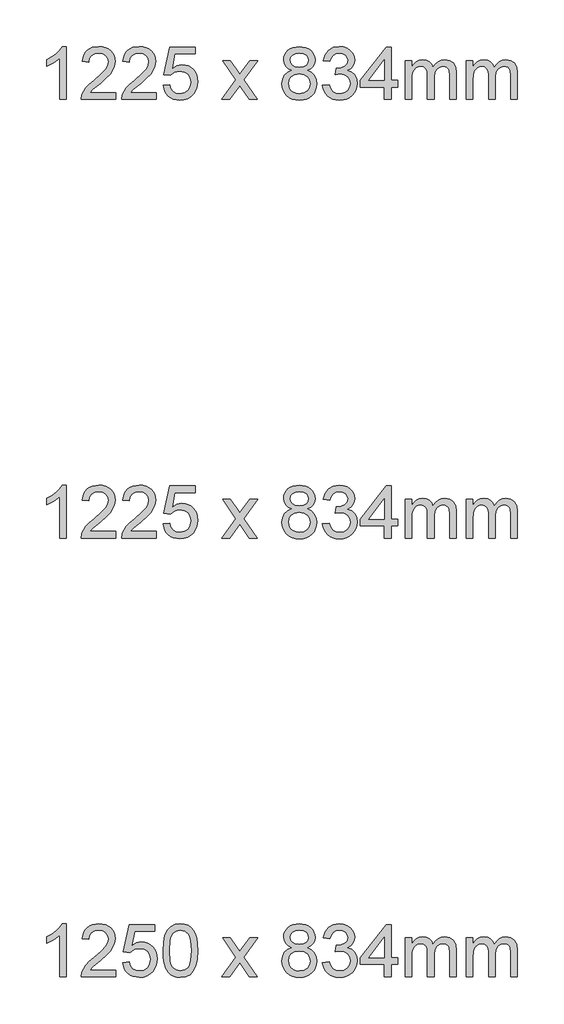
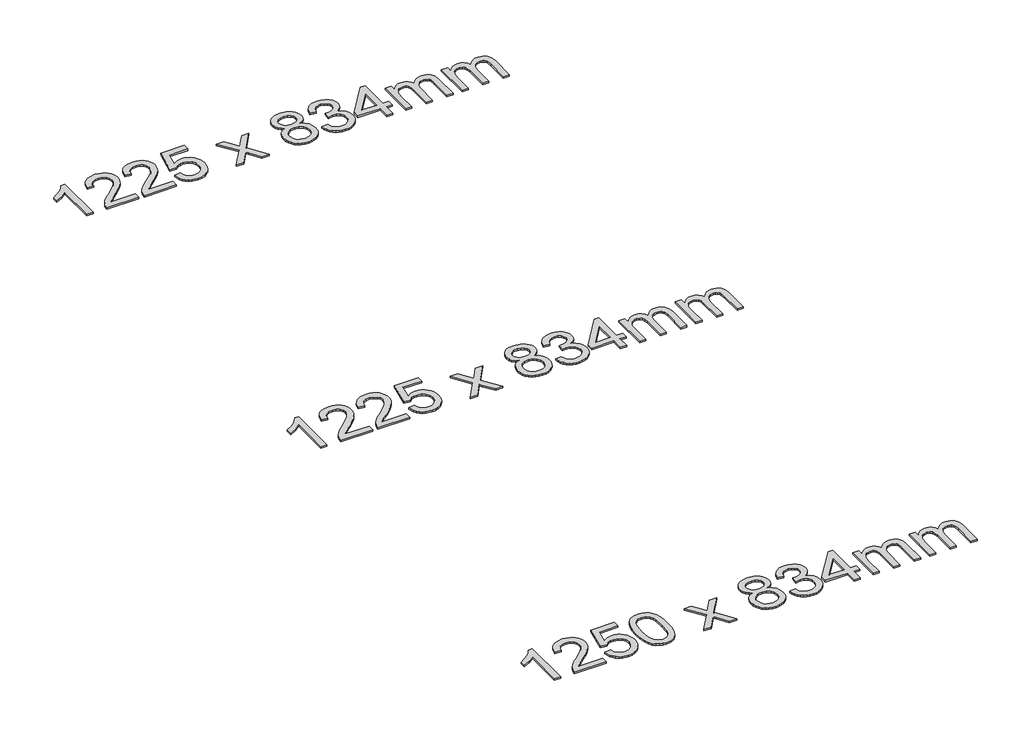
# One storey, part 58 of 67: 3 proxies.
"""IFC4 building model written with IfcOpenShell, lengths in millimetres."""

from ifc_helpers import new_model, si_unit, origin, origin_with_axes, place, context, project, spatial, polyline, outline, extrude, element, save

model = new_model("IFC4")

# Units and contexts
model_context = context("Model", 3, world=origin())
ifc_project = project(units=[si_unit("LENGTHUNIT", "METRE", prefix="MILLI")], contexts=[model_context])

# Site, building, storey
site = spatial("IfcSite", under=ifc_project)
building = spatial("IfcBuilding", under=site)
storey = spatial("IfcBuildingStorey", under=building, Name="Marelli - Linha COLAB - Planta Baixa", Elevation=0.0)

# Proxies
placement = place(None, origin())
element("IfcBuildingElementProxy", 1, Name="300mm Arial", ObjectType="300mm Arial", at=placement, inside=storey, context=model_context, shape_type="SweptSolid", body=[
    extrude(outline(polyline([(-317.6891758, -3780.5663201), (-355.3602921, -3780.5663201), (-355.3602921, -3545.7104543), (-391.0448457, -3571.1311002), (-430.7025247, -3590.1505994), (-430.7025247, -3554.5396222), (-401.1156153, -3538.4447849), (-375.4834373, -3519.2965271), (-355.2775187, -3498.9342587), (-341.9693875, -3479.1973896), (-317.6891758, -3479.1973896), (-317.6891758, -3780.5663201)])), origin_with_axes(), (0.0, 0.0, 1.0), 10.0),
    extrude(outline(polyline([(-35.1558035, -3742.8952038), (-35.1558035, -3780.5663201), (-232.9291641, -3780.5663201), (-228.8824622, -3754.5938512), (-219.5934418, -3734.2959621), (-206.0002021, -3714.6050783), (-186.3369094, -3693.9944896), (-158.8377303, -3670.9374855), (-118.1867698, -3634.8298677), (-93.7961935, -3608.1768171), (-81.6009054, -3586.5453558), (-77.5358094, -3565.5025057), (-81.3709792, -3546.6393564), (-92.8764886, -3530.9583863), (-110.5624155, -3520.390976), (-132.9388378, -3516.8685059), (-156.4373003, -3520.3082026), (-174.6934443, -3530.6272925), (-186.4748652, -3547.0164354), (-190.5491583, -3568.6662908), (-228.2202746, -3563.9574013), (-219.0876041, -3527.5186897), (-210.5412455, -3512.9827524), (-199.341538, -3500.9024273), (-185.745999, -3491.4064733), (-170.0121459, -3484.623649), (-132.1294974, -3479.1973896), (-111.9396737, -3480.7057058), (-93.9709375, -3485.2306543), (-78.2232888, -3492.7722352), (-64.6967277, -3503.3304485), (-53.8327126, -3516.1235449), (-46.0727017, -3530.3697751), (-41.4166952, -3546.0691393), (-39.8646931, -3563.2216373), (-41.5385561, -3581.238658), (-46.5601454, -3598.942979), (-55.4720867, -3616.9508027), (-68.8170061, -3635.8783314), (-90.0897824, -3658.4754829), (-122.7852948, -3687.4921753), (-166.1217938, -3723.7285518), (-183.117942, -3742.8952038), (-35.1558035, -3742.8952038)])), origin_with_axes(), (0.0, 0.0, 1.0), 10.0),
    extrude(outline(polyline([(195.5797839, -3742.8952038), (195.5797839, -3780.5663201), (-2.1935767, -3780.5663201), (1.8531252, -3754.5938512), (11.1421456, -3734.2959621), (24.7353853, -3714.6050783), (44.3986779, -3693.9944896), (71.8978571, -3670.9374855), (112.5488175, -3634.8298677), (136.9393938, -3608.1768171), (149.134682, -3586.5453558), (153.199778, -3565.5025057), (149.3646082, -3546.6393564), (137.8590988, -3530.9583863), (120.1731719, -3520.390976), (97.7967495, -3516.8685059), (74.2982871, -3520.3082026), (56.0421431, -3530.6272925), (44.2607222, -3547.0164354), (40.1864291, -3568.6662908), (2.5153128, -3563.9574013), (11.6479833, -3527.5186897), (20.1943419, -3512.9827524), (31.3940494, -3500.9024273), (44.9895884, -3491.4064733), (60.7234415, -3484.623649), (98.6060899, -3479.1973896), (118.7959137, -3480.7057058), (136.7646499, -3485.2306543), (152.5122985, -3492.7722352), (166.0388596, -3503.3304485), (176.9028748, -3516.1235449), (184.6628857, -3530.3697751), (189.3188922, -3546.0691393), (190.8708943, -3563.2216373), (189.1970312, -3581.238658), (184.175442, -3598.942979), (175.2635007, -3616.9508027), (161.9185813, -3635.8783314), (140.6458049, -3658.4754829), (107.9502926, -3687.4921753), (64.6137936, -3723.7285518), (47.6176454, -3742.8952038), (195.5797839, -3742.8952038)])), origin_with_axes(), (0.0, 0.0, 1.0), 10.0),
    extrude(outline(polyline([(233.2509002, -3700.5151979), (270.9220165, -3695.8063084), (277.838198, -3718.421854), (289.9047274, -3734.6178589), (307.0664225, -3744.3575347), (329.2681009, -3747.6040933), (356.2706394, -3743.0883418), (376.5041491, -3729.5410873), (389.1408956, -3708.5258284), (393.3531445, -3681.6060634), (389.4076101, -3656.2589939), (377.5710069, -3636.8716128), (357.7513644, -3624.56596), (329.8567121, -3620.4640758), (311.582174, -3622.1011506), (296.7841207, -3627.0123753), (275.630906, -3644.0085235), (237.9597897, -3639.2996339), (270.9220165, -3483.9062792), (416.8975922, -3483.9062792), (416.8975922, -3521.5773955), (301.3826457, -3521.5773955), (285.2694143, -3604.5715736), (312.1799822, -3588.237613), (340.3781372, -3582.7929595), (358.7239524, -3584.4806181), (375.575247, -3589.5435941), (390.9320211, -3597.9818873), (404.7942745, -3609.7954979), (416.2698935, -3624.2624574), (424.4667642, -3640.6607973), (429.3848866, -3658.9905177), (431.0242608, -3679.2516186), (425.1197547, -3716.9227349), (417.7391222, -3733.716548), (407.4062367, -3749.1491977), (391.7528578, -3764.9543279), (373.4875167, -3776.2437066), (352.6102135, -3783.0173339), (329.1209481, -3785.2752096), (292.1212164, -3779.4718711), (276.4425457, -3772.217698), (262.6446716, -3762.0618557), (251.1644541, -3749.5101819), (242.438753, -3735.0685143), (233.2509002, -3700.5151979)])), origin_with_axes(), (0.0, 0.0, 1.0), 10.0),
    extrude(outline(polyline([(567.5820574, -3780.5663201), (648.0746379, -3669.3188047), (572.2909469, -3559.2485118), (617.6140087, -3559.2485118), (654.181479, -3612.2235191), (671.2512036, -3637.2394947), (686.0400598, -3616.7852558), (727.6843017, -3559.2485118), (773.0073635, -3559.2485118), (693.3976997, -3669.3188047), (770.0643075, -3780.5663201), (724.7412457, -3780.5663201), (678.6088435, -3713.6853733), (670.1475576, -3701.4716911), (612.9051192, -3780.5663201), (567.5820574, -3780.5663201)])), origin_with_axes(), (0.0, 0.0, 1.0), 10.0),
    extrude(outline(polyline([(966.2189874, -3614.5779638), (946.049857, -3604.64515), (931.8955972, -3591.180669), (923.5354789, -3574.4604323), (920.7487727, -3554.7603514), (922.266286, -3539.3966796), (926.8188257, -3525.3113977), (934.4063918, -3512.5045058), (945.0289844, -3500.9760037), (958.1761672, -3491.4478601), (973.337504, -3484.6420431), (1009.7026392, -3479.1973896), (1046.2885036, -3484.7708018), (1061.6153872, -3491.7375671), (1074.9649051, -3501.4910385), (1085.7806358, -3513.2448683), (1093.5061577, -3526.2127086), (1098.1414708, -3540.3945595), (1099.6865752, -3555.790421), (1096.9366573, -3574.8559054), (1088.6869035, -3591.2910335), (1074.8453435, -3604.6727411), (1055.3200066, -3614.5779638), (1078.5057693, -3626.5249316), (1095.3823559, -3644.1188881), (1105.6738547, -3666.5137045), (1109.1043543, -3692.8632524), (1107.4029001, -3711.6528253), (1102.2985374, -3728.8788997), (1093.7912662, -3744.5414757), (1081.8810866, -3758.6405532), (1067.193398, -3770.2932154), (1050.3535997, -3778.6165455), (1031.3616916, -3783.6105436), (1010.217674, -3785.2752096), (989.0736563, -3783.6036458), (970.0817483, -3778.5889543), (953.24195, -3770.2311353), (938.5542613, -3758.5301886), (926.6440817, -3744.3322428), (918.1368106, -3728.4834266), (913.0324479, -3710.9837399), (911.3309937, -3691.8331828), (914.899449, -3664.4627624), (925.6048151, -3641.9483843), (942.8952689, -3625.0626007), (966.2189874, -3614.5779638)]), holes=[polyline([(958.4198891, -3555.8639974), (961.7584182, -3572.3083226), (971.7740055, -3585.4417098), (988.1723454, -3594.0501485), (1010.6591324, -3596.9196281), (1032.6216875, -3594.0685426), (1048.7717071, -3585.5152862), (1058.7045209, -3572.8233574), (1062.0154589, -3557.5562546), (1058.5941563, -3541.7097376), (1048.3302487, -3528.6039416), (1031.9594999, -3519.8023648), (1010.217674, -3516.8685059), (988.3378923, -3519.7379855), (971.9947347, -3528.3464242), (961.8136005, -3540.9647766), (958.4198891, -3555.8639974)]), polyline([(949.00211, -3690.5088076), (955.2928921, -3718.8725095), (964.0024983, -3731.0402065), (977.5497528, -3740.0993006), (993.7733488, -3745.7278951), (1010.5119796, -3747.6040933), (1036.1533546, -3743.6585589), (1055.393583, -3731.8219557), (1067.4233242, -3713.8969055), (1071.433238, -3691.68603), (1067.2945655, -3669.0980755), (1054.8785482, -3650.7775522), (1035.1968614, -3638.6374463), (1009.2611808, -3634.5907444), (983.9784907, -3638.582264), (964.9314004, -3650.556823), (952.9844326, -3668.5278584), (949.00211, -3690.5088076)])]), origin_with_axes(), (0.0, 0.0, 1.0), 10.0),
    extrude(outline(polyline([(1142.066581, -3700.5151979), (1179.7376974, -3695.8063084), (1188.1713921, -3719.4795148), (1200.5230301, -3735.4639875), (1217.3996166, -3744.5690668), (1239.408157, -3747.6040933), (1265.233473, -3743.4286327), (1285.1726772, -3730.9022507), (1297.9197883, -3712.2138454), (1302.1688253, -3689.5523145), (1297.9565765, -3668.0404148), (1285.31983, -3650.5936112), (1266.1899662, -3639.0329195), (1242.4983657, -3635.1793556), (1216.0844385, -3639.2996339), (1220.2782932, -3601.6285176), (1226.3115579, -3602.069976), (1248.8811183, -3599.3660433), (1269.0594458, -3591.2542454), (1283.296479, -3577.5322469), (1288.0421567, -3557.997713), (1284.6024601, -3541.7281317), (1274.2833701, -3528.5303652), (1258.5380207, -3519.7839707), (1238.8195458, -3516.8685059), (1219.0642826, -3519.8115619), (1202.9142631, -3528.6407298), (1191.1236451, -3543.3560096), (1184.4465869, -3563.9574013), (1146.7754706, -3559.2485118), (1157.8671127, -3525.4217623), (1177.6039818, -3500.1666633), (1204.6065202, -3484.4397081), (1237.4951706, -3479.1973896), (1261.177574, -3481.7817606), (1282.928597, -3489.5348737), (1301.2675145, -3501.76695), (1314.7136014, -3517.7882109), (1322.9633551, -3536.24669), (1325.713273, -3555.790421), (1323.1013109, -3574.0005798), (1315.2654244, -3590.5184814), (1302.3159781, -3604.5899677), (1284.3633368, -3615.4608806), (1307.9445727, -3624.9890243), (1325.4189674, -3641.2126203), (1336.2346981, -3663.2487518), (1339.8399417, -3690.2145021), (1338.0373199, -3709.3259717), (1332.6294545, -3726.9291252), (1323.6163457, -3743.0239625), (1310.9979932, -3757.6104836), (1295.6251244, -3769.7138012), (1278.3484662, -3778.3590281), (1259.1680186, -3783.5461642), (1238.0837818, -3785.2752096), (1219.0274944, -3783.7990831), (1201.6634643, -3779.3707036), (1185.9916913, -3771.9900711), (1172.0121755, -3761.6571855), (1160.2905354, -3748.9790523), (1151.3923896, -3734.5626766), (1145.3177382, -3718.4080585), (1142.066581, -3700.5151979)])), origin_with_axes(), (0.0, 0.0, 1.0), 10.0),
    extrude(outline(polyline([(1495.2332964, -3780.5663201), (1495.2332964, -3709.932977), (1358.6754998, -3709.932977), (1358.6754998, -3672.2618607), (1504.6510755, -3483.9062792), (1532.9044127, -3483.9062792), (1532.9044127, -3672.2618607), (1570.575529, -3672.2618607), (1570.575529, -3709.932977), (1532.9044127, -3709.932977), (1532.9044127, -3780.5663201), (1495.2332964, -3780.5663201)]), holes=[polyline([(1495.2332964, -3672.2618607), (1495.2332964, -3555.8639974), (1405.0286312, -3672.2618607), (1495.2332964, -3672.2618607)])]), origin_with_axes(), (0.0, 0.0, 1.0), 10.0),
    extrude(outline(polyline([(1612.9555349, -3780.5663201), (1612.9555349, -3559.2485118), (1650.6266512, -3559.2485118), (1650.6266512, -3595.6688293), (1661.9574166, -3578.9393956), (1676.5255436, -3565.8335995), (1693.8343915, -3557.3631165), (1713.3873196, -3554.5396222), (1734.3381992, -3557.4182988), (1751.1320123, -3566.0543287), (1763.6767883, -3579.8774946), (1771.8805568, -3598.3175797), (1785.6117523, -3579.1647233), (1801.2743282, -3565.4841116), (1818.8682846, -3557.2757446), (1838.3936215, -3554.5396222), (1866.7113381, -3559.0921619), (1887.6530207, -3572.749781), (1900.5932699, -3595.8803614), (1904.9066862, -3628.8517853), (1904.9066862, -3780.5663201), (1867.2355699, -3780.5663201), (1867.2355699, -3645.038593), (1863.740691, -3613.5846825), (1858.8294664, -3604.9118644), (1851.0855504, -3598.0968505), (1841.1251453, -3593.6822665), (1829.5644536, -3592.2107385), (1809.1562, -3595.981529), (1792.5187367, -3607.2939003), (1781.4546857, -3626.9204048), (1777.7666687, -3655.6335945), (1777.7666687, -3780.5663201), (1740.0955524, -3780.5663201), (1740.0955524, -3640.8447383), (1737.9158516, -3619.5443708), (1731.3767491, -3604.3508444), (1719.8712397, -3595.245765), (1702.7923181, -3592.2107385), (1688.2793734, -3594.2340895), (1674.9068629, -3600.3041424), (1663.870403, -3610.2737445), (1656.3656103, -3623.9957429), (1652.061391, -3643.0336362), (1650.6266512, -3668.9509227), (1650.6266512, -3780.5663201), (1612.9555349, -3780.5663201)])), origin_with_axes(), (0.0, 0.0, 1.0), 10.0),
    extrude(outline(polyline([(1961.4133607, -3780.5663201), (1961.4133607, -3559.2485118), (1999.084477, -3559.2485118), (1999.084477, -3595.6688293), (2010.4152425, -3578.9393956), (2024.9833695, -3565.8335995), (2042.2922173, -3557.3631165), (2061.8451454, -3554.5396222), (2082.796025, -3557.4182988), (2099.5898381, -3566.0543287), (2112.1346141, -3579.8774946), (2120.3383826, -3598.3175797), (2134.0695781, -3579.1647233), (2149.732154, -3565.4841116), (2167.3261105, -3557.2757446), (2186.8514474, -3554.5396222), (2215.1691639, -3559.0921619), (2236.1108465, -3572.749781), (2249.0510957, -3595.8803614), (2253.3645121, -3628.8517853), (2253.3645121, -3780.5663201), (2215.6933958, -3780.5663201), (2215.6933958, -3645.038593), (2212.1985168, -3613.5846825), (2207.2872922, -3604.9118644), (2199.5433762, -3598.0968505), (2189.5829712, -3593.6822665), (2178.0222795, -3592.2107385), (2157.6140258, -3595.981529), (2140.9765626, -3607.2939003), (2129.9125115, -3626.9204048), (2126.2244945, -3655.6335945), (2126.2244945, -3780.5663201), (2088.5533782, -3780.5663201), (2088.5533782, -3640.8447383), (2086.3736774, -3619.5443708), (2079.834575, -3604.3508444), (2068.3290656, -3595.245765), (2051.2501439, -3592.2107385), (2036.7371992, -3594.2340895), (2023.3646887, -3600.3041424), (2012.3282288, -3610.2737445), (2004.8234361, -3623.9957429), (2000.5192168, -3643.0336362), (1999.084477, -3668.9509227), (1999.084477, -3780.5663201), (1961.4133607, -3780.5663201)])), origin_with_axes(), (0.0, 0.0, 1.0), 10.0),
])
element("IfcBuildingElementProxy", 2, Name="300mm Arial", ObjectType="300mm Arial", at=placement, inside=storey, context=model_context, shape_type="SweptSolid", body=[
    extrude(outline(polyline([(-317.6891758, -6280.5663201), (-355.3602921, -6280.5663201), (-355.3602921, -6045.7104543), (-391.0448457, -6071.1311002), (-430.7025247, -6090.1505994), (-430.7025247, -6054.5396222), (-401.1156153, -6038.4447849), (-375.4834373, -6019.2965271), (-355.2775187, -5998.9342587), (-341.9693875, -5979.1973896), (-317.6891758, -5979.1973896), (-317.6891758, -6280.5663201)])), origin_with_axes(), (0.0, 0.0, 1.0), 10.0),
    extrude(outline(polyline([(-35.1558035, -6242.8952038), (-35.1558035, -6280.5663201), (-232.9291641, -6280.5663201), (-228.8824622, -6254.5938512), (-219.5934418, -6234.2959621), (-206.0002021, -6214.6050783), (-186.3369094, -6193.9944896), (-158.8377303, -6170.9374855), (-118.1867698, -6134.8298677), (-93.7961935, -6108.1768171), (-81.6009054, -6086.5453558), (-77.5358094, -6065.5025057), (-81.3709792, -6046.6393564), (-92.8764886, -6030.9583863), (-110.5624155, -6020.390976), (-132.9388378, -6016.8685059), (-156.4373003, -6020.3082026), (-174.6934443, -6030.6272925), (-186.4748652, -6047.0164354), (-190.5491583, -6068.6662908), (-228.2202746, -6063.9574013), (-219.0876041, -6027.5186897), (-210.5412455, -6012.9827524), (-199.341538, -6000.9024273), (-185.745999, -5991.4064733), (-170.0121459, -5984.623649), (-132.1294974, -5979.1973896), (-111.9396737, -5980.7057058), (-93.9709375, -5985.2306543), (-78.2232888, -5992.7722352), (-64.6967277, -6003.3304485), (-53.8327126, -6016.1235449), (-46.0727017, -6030.3697751), (-41.4166952, -6046.0691393), (-39.8646931, -6063.2216373), (-41.5385561, -6081.238658), (-46.5601454, -6098.942979), (-55.4720867, -6116.9508027), (-68.8170061, -6135.8783314), (-90.0897824, -6158.4754829), (-122.7852948, -6187.4921753), (-166.1217938, -6223.7285518), (-183.117942, -6242.8952038), (-35.1558035, -6242.8952038)])), origin_with_axes(), (0.0, 0.0, 1.0), 10.0),
    extrude(outline(polyline([(195.5797839, -6242.8952038), (195.5797839, -6280.5663201), (-2.1935767, -6280.5663201), (1.8531252, -6254.5938512), (11.1421456, -6234.2959621), (24.7353853, -6214.6050783), (44.3986779, -6193.9944896), (71.8978571, -6170.9374855), (112.5488175, -6134.8298677), (136.9393938, -6108.1768171), (149.134682, -6086.5453558), (153.199778, -6065.5025057), (149.3646082, -6046.6393564), (137.8590988, -6030.9583863), (120.1731719, -6020.390976), (97.7967495, -6016.8685059), (74.2982871, -6020.3082026), (56.0421431, -6030.6272925), (44.2607222, -6047.0164354), (40.1864291, -6068.6662908), (2.5153128, -6063.9574013), (11.6479833, -6027.5186897), (20.1943419, -6012.9827524), (31.3940494, -6000.9024273), (44.9895884, -5991.4064733), (60.7234415, -5984.623649), (98.6060899, -5979.1973896), (118.7959137, -5980.7057058), (136.7646499, -5985.2306543), (152.5122985, -5992.7722352), (166.0388596, -6003.3304485), (176.9028748, -6016.1235449), (184.6628857, -6030.3697751), (189.3188922, -6046.0691393), (190.8708943, -6063.2216373), (189.1970312, -6081.238658), (184.175442, -6098.942979), (175.2635007, -6116.9508027), (161.9185813, -6135.8783314), (140.6458049, -6158.4754829), (107.9502926, -6187.4921753), (64.6137936, -6223.7285518), (47.6176454, -6242.8952038), (195.5797839, -6242.8952038)])), origin_with_axes(), (0.0, 0.0, 1.0), 10.0),
    extrude(outline(polyline([(233.2509002, -6200.5151979), (270.9220165, -6195.8063084), (277.838198, -6218.421854), (289.9047274, -6234.6178589), (307.0664225, -6244.3575347), (329.2681009, -6247.6040933), (356.2706394, -6243.0883418), (376.5041491, -6229.5410873), (389.1408956, -6208.5258284), (393.3531445, -6181.6060634), (389.4076101, -6156.2589939), (377.5710069, -6136.8716128), (357.7513644, -6124.56596), (329.8567121, -6120.4640758), (311.582174, -6122.1011506), (296.7841207, -6127.0123753), (275.630906, -6144.0085235), (237.9597897, -6139.2996339), (270.9220165, -5983.9062792), (416.8975922, -5983.9062792), (416.8975922, -6021.5773955), (301.3826457, -6021.5773955), (285.2694143, -6104.5715736), (312.1799822, -6088.237613), (340.3781372, -6082.7929595), (358.7239524, -6084.4806181), (375.575247, -6089.5435941), (390.9320211, -6097.9818873), (404.7942745, -6109.7954979), (416.2698935, -6124.2624574), (424.4667642, -6140.6607973), (429.3848866, -6158.9905177), (431.0242608, -6179.2516186), (425.1197547, -6216.9227349), (417.7391222, -6233.716548), (407.4062367, -6249.1491977), (391.7528578, -6264.9543279), (373.4875167, -6276.2437066), (352.6102135, -6283.0173339), (329.1209481, -6285.2752096), (292.1212164, -6279.4718711), (276.4425457, -6272.217698), (262.6446716, -6262.0618557), (251.1644541, -6249.5101819), (242.438753, -6235.0685143), (233.2509002, -6200.5151979)])), origin_with_axes(), (0.0, 0.0, 1.0), 10.0),
    extrude(outline(polyline([(567.5820574, -6280.5663201), (648.0746379, -6169.3188047), (572.2909469, -6059.2485118), (617.6140087, -6059.2485118), (654.181479, -6112.2235191), (671.2512036, -6137.2394947), (686.0400598, -6116.7852558), (727.6843017, -6059.2485118), (773.0073635, -6059.2485118), (693.3976997, -6169.3188047), (770.0643075, -6280.5663201), (724.7412457, -6280.5663201), (678.6088435, -6213.6853733), (670.1475576, -6201.4716911), (612.9051192, -6280.5663201), (567.5820574, -6280.5663201)])), origin_with_axes(), (0.0, 0.0, 1.0), 10.0),
    extrude(outline(polyline([(966.2189874, -6114.5779638), (946.049857, -6104.64515), (931.8955972, -6091.180669), (923.5354789, -6074.4604323), (920.7487727, -6054.7603514), (922.266286, -6039.3966796), (926.8188257, -6025.3113977), (934.4063918, -6012.5045058), (945.0289844, -6000.9760037), (958.1761672, -5991.4478601), (973.337504, -5984.6420431), (1009.7026392, -5979.1973896), (1046.2885036, -5984.7708018), (1061.6153872, -5991.7375671), (1074.9649051, -6001.4910385), (1085.7806358, -6013.2448683), (1093.5061577, -6026.2127086), (1098.1414708, -6040.3945595), (1099.6865752, -6055.790421), (1096.9366573, -6074.8559054), (1088.6869035, -6091.2910335), (1074.8453435, -6104.6727411), (1055.3200066, -6114.5779638), (1078.5057693, -6126.5249316), (1095.3823559, -6144.1188881), (1105.6738547, -6166.5137045), (1109.1043543, -6192.8632524), (1107.4029001, -6211.6528253), (1102.2985374, -6228.8788997), (1093.7912662, -6244.5414757), (1081.8810866, -6258.6405532), (1067.193398, -6270.2932154), (1050.3535997, -6278.6165455), (1031.3616916, -6283.6105436), (1010.217674, -6285.2752096), (989.0736563, -6283.6036458), (970.0817483, -6278.5889543), (953.24195, -6270.2311353), (938.5542613, -6258.5301886), (926.6440817, -6244.3322428), (918.1368106, -6228.4834266), (913.0324479, -6210.9837399), (911.3309937, -6191.8331828), (914.899449, -6164.4627624), (925.6048151, -6141.9483843), (942.8952689, -6125.0626007), (966.2189874, -6114.5779638)]), holes=[polyline([(958.4198891, -6055.8639974), (961.7584182, -6072.3083226), (971.7740055, -6085.4417098), (988.1723454, -6094.0501485), (1010.6591324, -6096.9196281), (1032.6216875, -6094.0685426), (1048.7717071, -6085.5152862), (1058.7045209, -6072.8233574), (1062.0154589, -6057.5562546), (1058.5941563, -6041.7097376), (1048.3302487, -6028.6039416), (1031.9594999, -6019.8023648), (1010.217674, -6016.8685059), (988.3378923, -6019.7379855), (971.9947347, -6028.3464242), (961.8136005, -6040.9647766), (958.4198891, -6055.8639974)]), polyline([(949.00211, -6190.5088076), (955.2928921, -6218.8725095), (964.0024983, -6231.0402065), (977.5497528, -6240.0993006), (993.7733488, -6245.7278951), (1010.5119796, -6247.6040933), (1036.1533546, -6243.6585589), (1055.393583, -6231.8219557), (1067.4233242, -6213.8969055), (1071.433238, -6191.68603), (1067.2945655, -6169.0980755), (1054.8785482, -6150.7775522), (1035.1968614, -6138.6374463), (1009.2611808, -6134.5907444), (983.9784907, -6138.582264), (964.9314004, -6150.556823), (952.9844326, -6168.5278584), (949.00211, -6190.5088076)])]), origin_with_axes(), (0.0, 0.0, 1.0), 10.0),
    extrude(outline(polyline([(1142.066581, -6200.5151979), (1179.7376974, -6195.8063084), (1188.1713921, -6219.4795148), (1200.5230301, -6235.4639875), (1217.3996166, -6244.5690668), (1239.408157, -6247.6040933), (1265.233473, -6243.4286327), (1285.1726772, -6230.9022507), (1297.9197883, -6212.2138454), (1302.1688253, -6189.5523145), (1297.9565765, -6168.0404148), (1285.31983, -6150.5936112), (1266.1899662, -6139.0329195), (1242.4983657, -6135.1793556), (1216.0844385, -6139.2996339), (1220.2782932, -6101.6285176), (1226.3115579, -6102.069976), (1248.8811183, -6099.3660433), (1269.0594458, -6091.2542454), (1283.296479, -6077.5322469), (1288.0421567, -6057.997713), (1284.6024601, -6041.7281317), (1274.2833701, -6028.5303652), (1258.5380207, -6019.7839707), (1238.8195458, -6016.8685059), (1219.0642826, -6019.8115619), (1202.9142631, -6028.6407298), (1191.1236451, -6043.3560096), (1184.4465869, -6063.9574013), (1146.7754706, -6059.2485118), (1157.8671127, -6025.4217623), (1177.6039818, -6000.1666633), (1204.6065202, -5984.4397081), (1237.4951706, -5979.1973896), (1261.177574, -5981.7817606), (1282.928597, -5989.5348737), (1301.2675145, -6001.76695), (1314.7136014, -6017.7882109), (1322.9633551, -6036.24669), (1325.713273, -6055.790421), (1323.1013109, -6074.0005798), (1315.2654244, -6090.5184814), (1302.3159781, -6104.5899677), (1284.3633368, -6115.4608806), (1307.9445727, -6124.9890243), (1325.4189674, -6141.2126203), (1336.2346981, -6163.2487518), (1339.8399417, -6190.2145021), (1338.0373199, -6209.3259717), (1332.6294545, -6226.9291252), (1323.6163457, -6243.0239625), (1310.9979932, -6257.6104836), (1295.6251244, -6269.7138012), (1278.3484662, -6278.3590281), (1259.1680186, -6283.5461642), (1238.0837818, -6285.2752096), (1219.0274944, -6283.7990831), (1201.6634643, -6279.3707036), (1185.9916913, -6271.9900711), (1172.0121755, -6261.6571855), (1160.2905354, -6248.9790523), (1151.3923896, -6234.5626766), (1145.3177382, -6218.4080585), (1142.066581, -6200.5151979)])), origin_with_axes(), (0.0, 0.0, 1.0), 10.0),
    extrude(outline(polyline([(1495.2332964, -6280.5663201), (1495.2332964, -6209.932977), (1358.6754998, -6209.932977), (1358.6754998, -6172.2618607), (1504.6510755, -5983.9062792), (1532.9044127, -5983.9062792), (1532.9044127, -6172.2618607), (1570.575529, -6172.2618607), (1570.575529, -6209.932977), (1532.9044127, -6209.932977), (1532.9044127, -6280.5663201), (1495.2332964, -6280.5663201)]), holes=[polyline([(1495.2332964, -6172.2618607), (1495.2332964, -6055.8639974), (1405.0286312, -6172.2618607), (1495.2332964, -6172.2618607)])]), origin_with_axes(), (0.0, 0.0, 1.0), 10.0),
    extrude(outline(polyline([(1612.9555349, -6280.5663201), (1612.9555349, -6059.2485118), (1650.6266512, -6059.2485118), (1650.6266512, -6095.6688293), (1661.9574166, -6078.9393956), (1676.5255436, -6065.8335995), (1693.8343915, -6057.3631165), (1713.3873196, -6054.5396222), (1734.3381992, -6057.4182988), (1751.1320123, -6066.0543287), (1763.6767883, -6079.8774946), (1771.8805568, -6098.3175797), (1785.6117523, -6079.1647233), (1801.2743282, -6065.4841116), (1818.8682846, -6057.2757446), (1838.3936215, -6054.5396222), (1866.7113381, -6059.0921619), (1887.6530207, -6072.749781), (1900.5932699, -6095.8803614), (1904.9066862, -6128.8517853), (1904.9066862, -6280.5663201), (1867.2355699, -6280.5663201), (1867.2355699, -6145.038593), (1863.740691, -6113.5846825), (1858.8294664, -6104.9118644), (1851.0855504, -6098.0968505), (1841.1251453, -6093.6822665), (1829.5644536, -6092.2107385), (1809.1562, -6095.981529), (1792.5187367, -6107.2939003), (1781.4546857, -6126.9204048), (1777.7666687, -6155.6335945), (1777.7666687, -6280.5663201), (1740.0955524, -6280.5663201), (1740.0955524, -6140.8447383), (1737.9158516, -6119.5443708), (1731.3767491, -6104.3508444), (1719.8712397, -6095.245765), (1702.7923181, -6092.2107385), (1688.2793734, -6094.2340895), (1674.9068629, -6100.3041424), (1663.870403, -6110.2737445), (1656.3656103, -6123.9957429), (1652.061391, -6143.0336362), (1650.6266512, -6168.9509227), (1650.6266512, -6280.5663201), (1612.9555349, -6280.5663201)])), origin_with_axes(), (0.0, 0.0, 1.0), 10.0),
    extrude(outline(polyline([(1961.4133607, -6280.5663201), (1961.4133607, -6059.2485118), (1999.084477, -6059.2485118), (1999.084477, -6095.6688293), (2010.4152425, -6078.9393956), (2024.9833695, -6065.8335995), (2042.2922173, -6057.3631165), (2061.8451454, -6054.5396222), (2082.796025, -6057.4182988), (2099.5898381, -6066.0543287), (2112.1346141, -6079.8774946), (2120.3383826, -6098.3175797), (2134.0695781, -6079.1647233), (2149.732154, -6065.4841116), (2167.3261105, -6057.2757446), (2186.8514474, -6054.5396222), (2215.1691639, -6059.0921619), (2236.1108465, -6072.749781), (2249.0510957, -6095.8803614), (2253.3645121, -6128.8517853), (2253.3645121, -6280.5663201), (2215.6933958, -6280.5663201), (2215.6933958, -6145.038593), (2212.1985168, -6113.5846825), (2207.2872922, -6104.9118644), (2199.5433762, -6098.0968505), (2189.5829712, -6093.6822665), (2178.0222795, -6092.2107385), (2157.6140258, -6095.981529), (2140.9765626, -6107.2939003), (2129.9125115, -6126.9204048), (2126.2244945, -6155.6335945), (2126.2244945, -6280.5663201), (2088.5533782, -6280.5663201), (2088.5533782, -6140.8447383), (2086.3736774, -6119.5443708), (2079.834575, -6104.3508444), (2068.3290656, -6095.245765), (2051.2501439, -6092.2107385), (2036.7371992, -6094.2340895), (2023.3646887, -6100.3041424), (2012.3282288, -6110.2737445), (2004.8234361, -6123.9957429), (2000.5192168, -6143.0336362), (1999.084477, -6168.9509227), (1999.084477, -6280.5663201), (1961.4133607, -6280.5663201)])), origin_with_axes(), (0.0, 0.0, 1.0), 10.0),
])
element("IfcBuildingElementProxy", 3, Name="300mm Arial", ObjectType="300mm Arial", at=placement, inside=storey, context=model_context, shape_type="SweptSolid", body=[
    extrude(outline(polyline([(-317.6891758, -8780.5663201), (-355.3602921, -8780.5663201), (-355.3602921, -8545.7104543), (-391.0448457, -8571.1311002), (-430.7025247, -8590.1505994), (-430.7025247, -8554.5396222), (-401.1156153, -8538.4447849), (-375.4834373, -8519.2965271), (-355.2775187, -8498.9342587), (-341.9693875, -8479.1973896), (-317.6891758, -8479.1973896), (-317.6891758, -8780.5663201)])), origin_with_axes(), (0.0, 0.0, 1.0), 10.0),
    extrude(outline(polyline([(-35.1558035, -8742.8952038), (-35.1558035, -8780.5663201), (-232.9291641, -8780.5663201), (-228.8824622, -8754.5938512), (-219.5934418, -8734.2959621), (-206.0002021, -8714.6050783), (-186.3369094, -8693.9944896), (-158.8377303, -8670.9374855), (-118.1867698, -8634.8298677), (-93.7961935, -8608.1768171), (-81.6009054, -8586.5453558), (-77.5358094, -8565.5025057), (-81.3709792, -8546.6393564), (-92.8764886, -8530.9583863), (-110.5624155, -8520.390976), (-132.9388378, -8516.8685059), (-156.4373003, -8520.3082026), (-174.6934443, -8530.6272925), (-186.4748652, -8547.0164354), (-190.5491583, -8568.6662908), (-228.2202746, -8563.9574013), (-219.0876041, -8527.5186897), (-210.5412455, -8512.9827524), (-199.341538, -8500.9024273), (-185.745999, -8491.4064733), (-170.0121459, -8484.623649), (-132.1294974, -8479.1973896), (-111.9396737, -8480.7057058), (-93.9709375, -8485.2306543), (-78.2232888, -8492.7722352), (-64.6967277, -8503.3304485), (-53.8327126, -8516.1235449), (-46.0727017, -8530.3697751), (-41.4166952, -8546.0691393), (-39.8646931, -8563.2216373), (-41.5385561, -8581.238658), (-46.5601454, -8598.942979), (-55.4720867, -8616.9508027), (-68.8170061, -8635.8783314), (-90.0897824, -8658.4754829), (-122.7852948, -8687.4921753), (-166.1217938, -8723.7285518), (-183.117942, -8742.8952038), (-35.1558035, -8742.8952038)])), origin_with_axes(), (0.0, 0.0, 1.0), 10.0),
    extrude(outline(polyline([(2.5153128, -8700.5151979), (40.1864291, -8695.8063084), (47.1026106, -8718.421854), (59.16914, -8734.6178589), (76.3308351, -8744.3575347), (98.5325135, -8747.6040933), (125.535052, -8743.0883418), (145.7685617, -8729.5410873), (158.4053082, -8708.5258284), (162.6175571, -8681.6060634), (158.6720227, -8656.2589939), (146.8354195, -8636.8716128), (127.015777, -8624.56596), (99.1211247, -8620.4640758), (80.8465866, -8622.1011506), (66.0485334, -8627.0123753), (44.8953186, -8644.0085235), (7.2242023, -8639.2996339), (40.1864291, -8483.9062792), (186.1620048, -8483.9062792), (186.1620048, -8521.5773955), (70.6470583, -8521.5773955), (54.5338269, -8604.5715736), (81.4443949, -8588.237613), (109.6425498, -8582.7929595), (127.988365, -8584.4806181), (144.8396597, -8589.5435941), (160.1964337, -8597.9818873), (174.0586871, -8609.7954979), (185.5343061, -8624.2624574), (193.7311768, -8640.6607973), (198.6492993, -8658.9905177), (200.2886734, -8679.2516186), (194.3841674, -8716.9227349), (187.0035348, -8733.716548), (176.6706493, -8749.1491977), (161.0172704, -8764.9543279), (142.7519293, -8776.2437066), (121.8746261, -8783.0173339), (98.3853607, -8785.2752096), (61.3856291, -8779.4718711), (45.7069583, -8772.217698), (31.9090842, -8762.0618557), (20.4288667, -8749.5101819), (11.7031656, -8735.0685143), (2.5153128, -8700.5151979)])), origin_with_axes(), (0.0, 0.0, 1.0), 10.0),
    extrude(outline(polyline([(233.2509002, -8632.309876), (236.0192122, -8584.0713494), (244.3241482, -8545.6000897), (258.0829348, -8516.3074859), (277.2127986, -8495.6049266), (301.8516952, -8483.2992739), (332.1375805, -8479.1973896), (355.3509344, -8481.6254108), (376.1362671, -8488.9094743), (393.5186914, -8500.7644716), (406.5233199, -8516.9052941), (416.3457692, -8537.1939862), (424.1816557, -8561.4925919), (429.3136095, -8592.3486943), (431.0242608, -8632.309876), (428.2835399, -8680.2724911), (420.0613773, -8718.6517803), (406.3853641, -8747.9719753), (387.2830915, -8768.757308), (362.5890126, -8781.1457342), (332.1375805, -8785.2752096), (311.3890359, -8783.4817849), (292.9949362, -8778.1015107), (276.9552812, -8769.1343871), (263.270071, -8756.580414), (250.1366837, -8733.8866934), (240.7556929, -8705.6103636), (235.1270983, -8671.7514244), (233.2509002, -8632.309876)]), holes=[polyline([(270.9220165, -8632.2362996), (275.3366004, -8691.492892), (280.8548303, -8711.7608907), (288.5803522, -8725.788691), (308.2988272, -8742.1502427), (332.1375805, -8747.6040933), (355.9763338, -8742.1318486), (375.6948087, -8725.7151146), (383.4203306, -8711.6643216), (388.9385605, -8691.4009215), (393.3531445, -8632.2362996), (389.0857133, -8574.3132795), (383.7514244, -8554.1119594), (376.2834199, -8539.750766), (356.6017331, -8522.589071), (331.6961221, -8516.8685059), (308.1148862, -8521.9084893), (289.1689634, -8537.0284393), (281.1859241, -8552.6634241), (275.4837532, -8573.7430624), (270.9220165, -8632.2362996)])]), origin_with_axes(), (0.0, 0.0, 1.0), 10.0),
    extrude(outline(polyline([(567.5820574, -8780.5663201), (648.0746379, -8669.3188047), (572.2909469, -8559.2485118), (617.6140087, -8559.2485118), (654.181479, -8612.2235191), (671.2512036, -8637.2394947), (686.0400598, -8616.7852558), (727.6843017, -8559.2485118), (773.0073635, -8559.2485118), (693.3976997, -8669.3188047), (770.0643075, -8780.5663201), (724.7412457, -8780.5663201), (678.6088435, -8713.6853733), (670.1475576, -8701.4716911), (612.9051192, -8780.5663201), (567.5820574, -8780.5663201)])), origin_with_axes(), (0.0, 0.0, 1.0), 10.0),
    extrude(outline(polyline([(966.2189874, -8614.5779638), (946.049857, -8604.64515), (931.8955972, -8591.180669), (923.5354789, -8574.4604323), (920.7487727, -8554.7603514), (922.266286, -8539.3966796), (926.8188257, -8525.3113977), (934.4063918, -8512.5045058), (945.0289844, -8500.9760037), (958.1761672, -8491.4478601), (973.337504, -8484.6420431), (1009.7026392, -8479.1973896), (1046.2885036, -8484.7708018), (1061.6153872, -8491.7375671), (1074.9649051, -8501.4910385), (1085.7806358, -8513.2448683), (1093.5061577, -8526.2127086), (1098.1414708, -8540.3945595), (1099.6865752, -8555.790421), (1096.9366573, -8574.8559054), (1088.6869035, -8591.2910335), (1074.8453435, -8604.6727411), (1055.3200066, -8614.5779638), (1078.5057693, -8626.5249316), (1095.3823559, -8644.1188881), (1105.6738547, -8666.5137045), (1109.1043543, -8692.8632524), (1107.4029001, -8711.6528253), (1102.2985374, -8728.8788997), (1093.7912662, -8744.5414757), (1081.8810866, -8758.6405532), (1067.193398, -8770.2932154), (1050.3535997, -8778.6165455), (1031.3616916, -8783.6105436), (1010.217674, -8785.2752096), (989.0736563, -8783.6036458), (970.0817483, -8778.5889543), (953.24195, -8770.2311353), (938.5542613, -8758.5301886), (926.6440817, -8744.3322428), (918.1368106, -8728.4834266), (913.0324479, -8710.9837399), (911.3309937, -8691.8331828), (914.899449, -8664.4627624), (925.6048151, -8641.9483843), (942.8952689, -8625.0626007), (966.2189874, -8614.5779638)]), holes=[polyline([(949.00211, -8690.5088076), (955.2928921, -8718.8725095), (964.0024983, -8731.0402065), (977.5497528, -8740.0993006), (993.7733488, -8745.7278951), (1010.5119796, -8747.6040933), (1036.1533546, -8743.6585589), (1055.393583, -8731.8219557), (1067.4233242, -8713.8969055), (1071.433238, -8691.68603), (1067.2945655, -8669.0980755), (1054.8785482, -8650.7775522), (1035.1968614, -8638.6374463), (1009.2611808, -8634.5907444), (983.9784907, -8638.582264), (964.9314004, -8650.556823), (952.9844326, -8668.5278584), (949.00211, -8690.5088076)]), polyline([(958.4198891, -8555.8639974), (961.7584182, -8572.3083226), (971.7740055, -8585.4417098), (988.1723454, -8594.0501485), (1010.6591324, -8596.9196281), (1032.6216875, -8594.0685426), (1048.7717071, -8585.5152862), (1058.7045209, -8572.8233574), (1062.0154589, -8557.5562546), (1058.5941563, -8541.7097376), (1048.3302487, -8528.6039416), (1031.9594999, -8519.8023648), (1010.217674, -8516.8685059), (988.3378923, -8519.7379855), (971.9947347, -8528.3464242), (961.8136005, -8540.9647766), (958.4198891, -8555.8639974)])]), origin_with_axes(), (0.0, 0.0, 1.0), 10.0),
    extrude(outline(polyline([(1142.066581, -8700.5151979), (1179.7376974, -8695.8063084), (1188.1713921, -8719.4795148), (1200.5230301, -8735.4639875), (1217.3996166, -8744.5690668), (1239.408157, -8747.6040933), (1265.233473, -8743.4286327), (1285.1726772, -8730.9022507), (1297.9197883, -8712.2138454), (1302.1688253, -8689.5523145), (1297.9565765, -8668.0404148), (1285.31983, -8650.5936112), (1266.1899662, -8639.0329195), (1242.4983657, -8635.1793556), (1216.0844385, -8639.2996339), (1220.2782932, -8601.6285176), (1226.3115579, -8602.069976), (1248.8811183, -8599.3660433), (1269.0594458, -8591.2542454), (1283.296479, -8577.5322469), (1288.0421567, -8557.997713), (1284.6024601, -8541.7281317), (1274.2833701, -8528.5303652), (1258.5380207, -8519.7839707), (1238.8195458, -8516.8685059), (1219.0642826, -8519.8115619), (1202.9142631, -8528.6407298), (1191.1236451, -8543.3560096), (1184.4465869, -8563.9574013), (1146.7754706, -8559.2485118), (1157.8671127, -8525.4217623), (1177.6039818, -8500.1666633), (1204.6065202, -8484.4397081), (1237.4951706, -8479.1973896), (1261.177574, -8481.7817606), (1282.928597, -8489.5348737), (1301.2675145, -8501.76695), (1314.7136014, -8517.7882109), (1322.9633551, -8536.24669), (1325.713273, -8555.790421), (1323.1013109, -8574.0005798), (1315.2654244, -8590.5184814), (1302.3159781, -8604.5899677), (1284.3633368, -8615.4608806), (1307.9445727, -8624.9890243), (1325.4189674, -8641.2126203), (1336.2346981, -8663.2487518), (1339.8399417, -8690.2145021), (1338.0373199, -8709.3259717), (1332.6294545, -8726.9291252), (1323.6163457, -8743.0239625), (1310.9979932, -8757.6104836), (1295.6251244, -8769.7138012), (1278.3484662, -8778.3590281), (1259.1680186, -8783.5461642), (1238.0837818, -8785.2752096), (1219.0274944, -8783.7990831), (1201.6634643, -8779.3707036), (1185.9916913, -8771.9900711), (1172.0121755, -8761.6571855), (1160.2905354, -8748.9790523), (1151.3923896, -8734.5626766), (1145.3177382, -8718.4080585), (1142.066581, -8700.5151979)])), origin_with_axes(), (0.0, 0.0, 1.0), 10.0),
    extrude(outline(polyline([(1495.2332964, -8780.5663201), (1495.2332964, -8709.932977), (1358.6754998, -8709.932977), (1358.6754998, -8672.2618607), (1504.6510755, -8483.9062792), (1532.9044127, -8483.9062792), (1532.9044127, -8672.2618607), (1570.575529, -8672.2618607), (1570.575529, -8709.932977), (1532.9044127, -8709.932977), (1532.9044127, -8780.5663201), (1495.2332964, -8780.5663201)]), holes=[polyline([(1495.2332964, -8672.2618607), (1495.2332964, -8555.8639974), (1405.0286312, -8672.2618607), (1495.2332964, -8672.2618607)])]), origin_with_axes(), (0.0, 0.0, 1.0), 10.0),
    extrude(outline(polyline([(1612.9555349, -8780.5663201), (1612.9555349, -8559.2485118), (1650.6266512, -8559.2485118), (1650.6266512, -8595.6688293), (1661.9574166, -8578.9393956), (1676.5255436, -8565.8335995), (1693.8343915, -8557.3631165), (1713.3873196, -8554.5396222), (1734.3381992, -8557.4182988), (1751.1320123, -8566.0543287), (1763.6767883, -8579.8774946), (1771.8805568, -8598.3175797), (1785.6117523, -8579.1647233), (1801.2743282, -8565.4841116), (1818.8682846, -8557.2757446), (1838.3936215, -8554.5396222), (1866.7113381, -8559.0921619), (1887.6530207, -8572.749781), (1900.5932699, -8595.8803614), (1904.9066862, -8628.8517853), (1904.9066862, -8780.5663201), (1867.2355699, -8780.5663201), (1867.2355699, -8645.038593), (1863.740691, -8613.5846825), (1858.8294664, -8604.9118644), (1851.0855504, -8598.0968505), (1841.1251453, -8593.6822665), (1829.5644536, -8592.2107385), (1809.1562, -8595.981529), (1792.5187367, -8607.2939003), (1781.4546857, -8626.9204048), (1777.7666687, -8655.6335945), (1777.7666687, -8780.5663201), (1740.0955524, -8780.5663201), (1740.0955524, -8640.8447383), (1737.9158516, -8619.5443708), (1731.3767491, -8604.3508444), (1719.8712397, -8595.245765), (1702.7923181, -8592.2107385), (1688.2793734, -8594.2340895), (1674.9068629, -8600.3041424), (1663.870403, -8610.2737445), (1656.3656103, -8623.9957429), (1652.061391, -8643.0336362), (1650.6266512, -8668.9509227), (1650.6266512, -8780.5663201), (1612.9555349, -8780.5663201)])), origin_with_axes(), (0.0, 0.0, 1.0), 10.0),
    extrude(outline(polyline([(1961.4133607, -8780.5663201), (1961.4133607, -8559.2485118), (1999.084477, -8559.2485118), (1999.084477, -8595.6688293), (2010.4152425, -8578.9393956), (2024.9833695, -8565.8335995), (2042.2922173, -8557.3631165), (2061.8451454, -8554.5396222), (2082.796025, -8557.4182988), (2099.5898381, -8566.0543287), (2112.1346141, -8579.8774946), (2120.3383826, -8598.3175797), (2134.0695781, -8579.1647233), (2149.732154, -8565.4841116), (2167.3261105, -8557.2757446), (2186.8514474, -8554.5396222), (2215.1691639, -8559.0921619), (2236.1108465, -8572.749781), (2249.0510957, -8595.8803614), (2253.3645121, -8628.8517853), (2253.3645121, -8780.5663201), (2215.6933958, -8780.5663201), (2215.6933958, -8645.038593), (2212.1985168, -8613.5846825), (2207.2872922, -8604.9118644), (2199.5433762, -8598.0968505), (2189.5829712, -8593.6822665), (2178.0222795, -8592.2107385), (2157.6140258, -8595.981529), (2140.9765626, -8607.2939003), (2129.9125115, -8626.9204048), (2126.2244945, -8655.6335945), (2126.2244945, -8780.5663201), (2088.5533782, -8780.5663201), (2088.5533782, -8640.8447383), (2086.3736774, -8619.5443708), (2079.834575, -8604.3508444), (2068.3290656, -8595.245765), (2051.2501439, -8592.2107385), (2036.7371992, -8594.2340895), (2023.3646887, -8600.3041424), (2012.3282288, -8610.2737445), (2004.8234361, -8623.9957429), (2000.5192168, -8643.0336362), (1999.084477, -8668.9509227), (1999.084477, -8780.5663201), (1961.4133607, -8780.5663201)])), origin_with_axes(), (0.0, 0.0, 1.0), 10.0),
])

save(model, "model.ifc")
